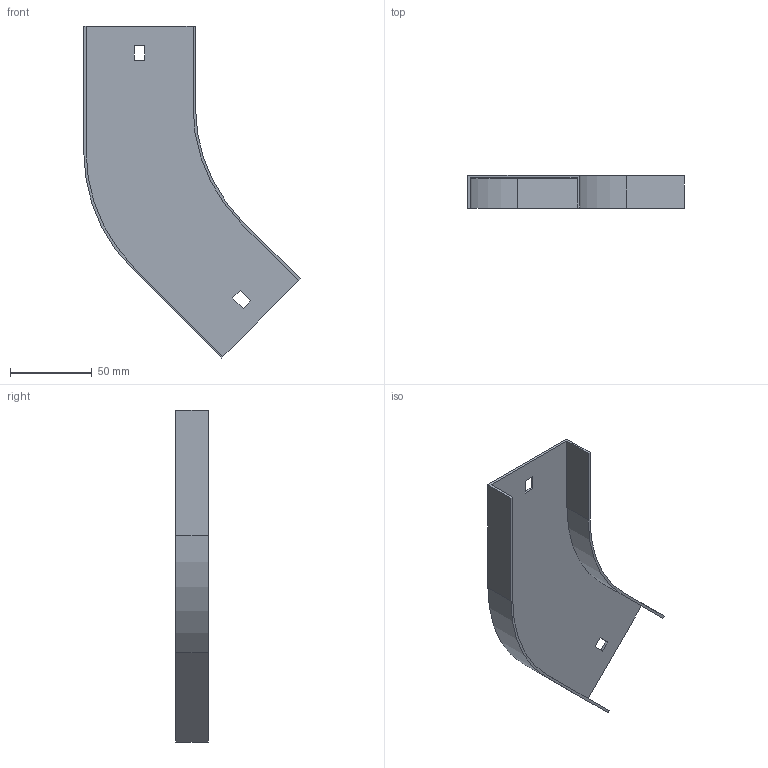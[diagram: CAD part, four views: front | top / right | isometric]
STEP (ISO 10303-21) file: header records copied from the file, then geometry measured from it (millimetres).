
FILE_DESCRIPTION (( 'STEP AP214' ), '1' );
FILE_NAME ('11N1R065.step', '2025-02-21T09:20:40', ( '' ), ( '' ), 'SwSTEP 2.0', 'SolidWorks 2023', '' );
FILE_SCHEMA (( 'AUTOMOTIVE_DESIGN' ));
Length unit declared in the file: millimetre
Products named in the file (1): 11N1R065
Bounding box: 132.71 x 20 x 203.44 mm (x, y, z)
Volume: 32794.7 mm3; surface area: 44752.7 mm2
Topology: 1 solids, 1 shells, 26 faces, 72 edges, 48 vertices
Faces by surface type: plane 22, cylinder 4
Entity records: 855 total; most frequent: CARTESIAN_POINT 147, ORIENTED_EDGE 144, DIRECTION 134, EDGE_CURVE 72, LINE 64, VECTOR 64, VERTEX_POINT 48, AXIS2_PLACEMENT_3D 35
